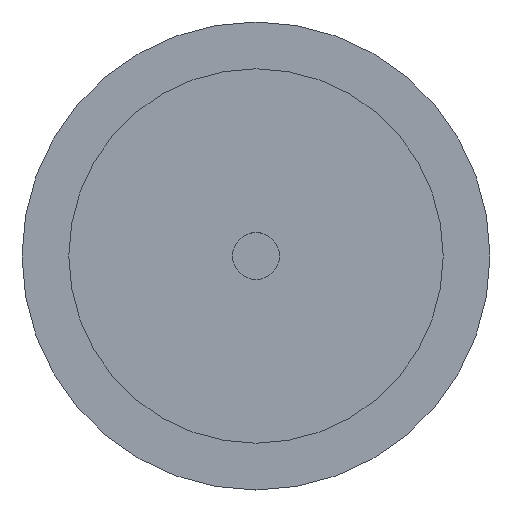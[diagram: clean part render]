
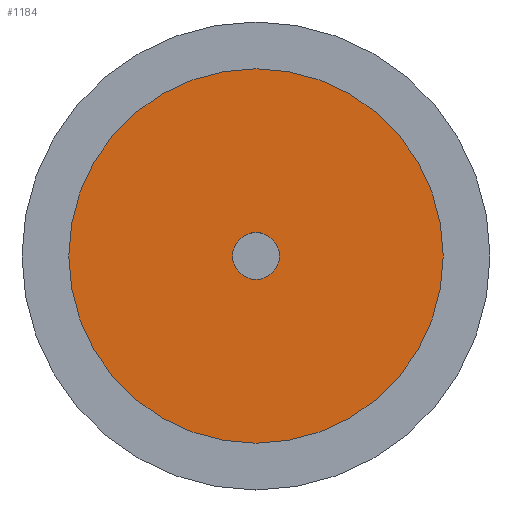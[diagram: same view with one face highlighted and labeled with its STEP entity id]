
A CAD part, left-side view. The second image highlights one B-rep face of the part: STEP entity #1184.
In plain terms, the highlighted planar face has unit normal (-1, 0, 0).
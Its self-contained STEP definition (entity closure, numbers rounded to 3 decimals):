
#543 = VERTEX_POINT ( 'NONE', #2105 ) ;
#558 = EDGE_CURVE ( 'NONE', #543, #576, #1881, .T. ) ;
#576 = VERTEX_POINT ( 'NONE', #3681 ) ;
#1184 = ADVANCED_FACE ( 'NONE', ( #2795, #2794 ), #2793, .F. ) ;
#1185 = EDGE_LOOP ( 'NONE', ( #1186, #1187 ) ) ;
#1186 = ORIENTED_EDGE ( 'NONE', *, *, #1269, .F. ) ;
#1187 = ORIENTED_EDGE ( 'NONE', *, *, #1218, .F. ) ;
#1188 = EDGE_LOOP ( 'NONE', ( #1219, #1220 ) ) ;
#1218 = EDGE_CURVE ( 'NONE', #1364, #1270, #2866, .T. ) ;
#1219 = ORIENTED_EDGE ( 'NONE', *, *, #558, .T. ) ;
#1220 = ORIENTED_EDGE ( 'NONE', *, *, #1221, .T. ) ;
#1221 = EDGE_CURVE ( 'NONE', #576, #543, #2861, .T. ) ;
#1269 = EDGE_CURVE ( 'NONE', #1270, #1364, #2915, .T. ) ;
#1270 = VERTEX_POINT ( 'NONE', #2910 ) ;
#1364 = VERTEX_POINT ( 'NONE', #3147 ) ;
#1881 = CIRCLE ( 'NONE', #1943, 1.5 ) ;
#1943 = AXIS2_PLACEMENT_3D ( 'NONE', #1945, #1947, #1948 ) ;
#1945 = CARTESIAN_POINT ( 'NONE',  ( -7., 0., 0. ) ) ;
#1947 = DIRECTION ( 'NONE',  ( 1., 0., 0. ) ) ;
#1948 = DIRECTION ( 'NONE',  ( 0., 0., -1. ) ) ;
#2105 = CARTESIAN_POINT ( 'NONE',  ( -7., 0., 1.5 ) ) ;
#2789 = DIRECTION ( 'NONE',  ( 0., 0., -1. ) ) ;
#2790 = DIRECTION ( 'NONE',  ( 1., 0., 0. ) ) ;
#2791 = CARTESIAN_POINT ( 'NONE',  ( -7., 0., 0. ) ) ;
#2792 = AXIS2_PLACEMENT_3D ( 'NONE', #2791, #2790, #2789 ) ;
#2793 = PLANE ( 'NONE',  #2792 ) ;
#2794 = FACE_BOUND ( 'NONE', #1188, .T. ) ;
#2795 = FACE_OUTER_BOUND ( 'NONE', #1185, .T. ) ;
#2857 = DIRECTION ( 'NONE',  ( 0., 0., -1. ) ) ;
#2858 = DIRECTION ( 'NONE',  ( 1., 0., 0. ) ) ;
#2859 = CARTESIAN_POINT ( 'NONE',  ( -7., 0., 0. ) ) ;
#2860 = AXIS2_PLACEMENT_3D ( 'NONE', #2859, #2858, #2857 ) ;
#2861 = CIRCLE ( 'NONE', #2860, 1.5 ) ;
#2862 = DIRECTION ( 'NONE',  ( 0., 0., -1. ) ) ;
#2863 = DIRECTION ( 'NONE',  ( 1., 0., 0. ) ) ;
#2864 = CARTESIAN_POINT ( 'NONE',  ( -7., 0., 0. ) ) ;
#2865 = AXIS2_PLACEMENT_3D ( 'NONE', #2864, #2863, #2862 ) ;
#2866 = CIRCLE ( 'NONE', #2865, 12. ) ;
#2910 = CARTESIAN_POINT ( 'NONE',  ( -7., 0., -12. ) ) ;
#2911 = DIRECTION ( 'NONE',  ( 0., 0., -1. ) ) ;
#2912 = DIRECTION ( 'NONE',  ( 1., 0., 0. ) ) ;
#2913 = CARTESIAN_POINT ( 'NONE',  ( -7., 0., 0. ) ) ;
#2914 = AXIS2_PLACEMENT_3D ( 'NONE', #2913, #2912, #2911 ) ;
#2915 = CIRCLE ( 'NONE', #2914, 12. ) ;
#3147 = CARTESIAN_POINT ( 'NONE',  ( -7., 0., 12. ) ) ;
#3681 = CARTESIAN_POINT ( 'NONE',  ( -7., 0., -1.5 ) ) ;
